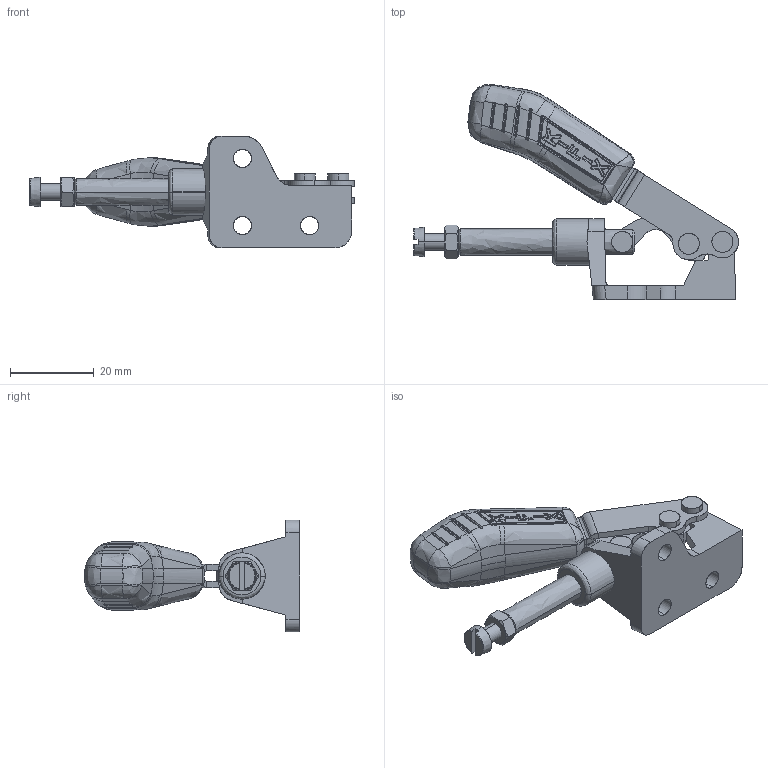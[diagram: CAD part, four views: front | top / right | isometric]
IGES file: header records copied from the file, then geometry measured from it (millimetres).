
Start section: SolidWorks IGES file using analytic representation for surfaces
Global section: file name: C:\Projetos\Grampos\KF-061\KF-061.IGS; native system: SolidWorks 2013; preprocessor: SolidWorks 2013; author: Ricardo; date: 140825.153243; units: millimetre
Bounding box: 77.36 x 51.23 x 26.67 mm (x, y, z)
Surface area: 10954.2 mm2 (no closed solid volume)
Topology: 0 solids, 0 shells, 897 faces, 9768 edges, 9743 vertices
Faces by surface type: bspline 509, revolution 388
